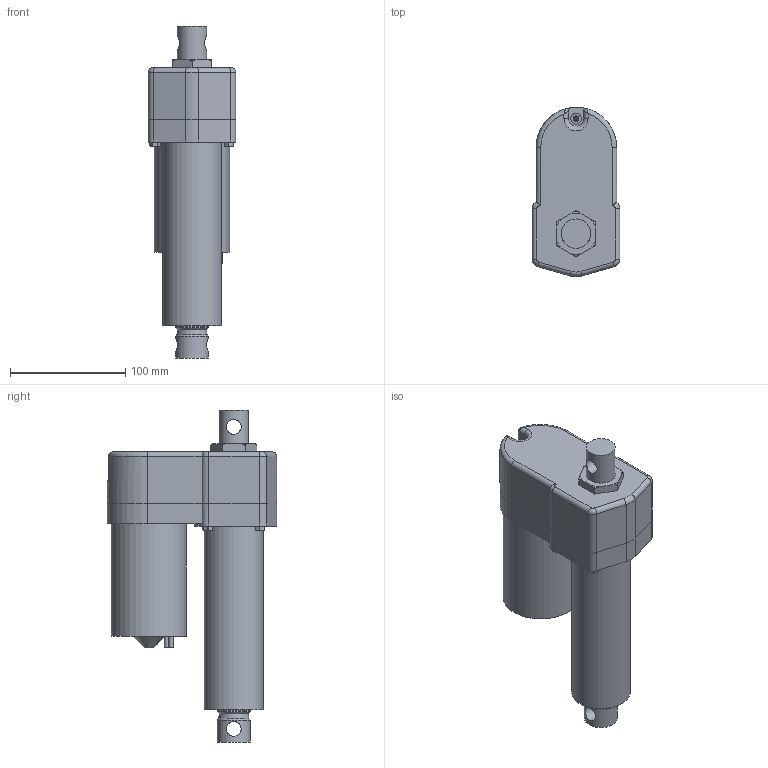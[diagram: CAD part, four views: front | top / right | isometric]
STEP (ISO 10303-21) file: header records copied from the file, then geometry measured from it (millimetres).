
FILE_DESCRIPTION (( 'STEP AP214' ), '1' );
FILE_NAME ('D12-05A5-04M0N-tollo.step', '2020-04-13T14:29:45', ( '' ), ( '' ), 'SwSTEP 2.0', 'SolidWorks 2010', '' );
FILE_SCHEMA (( 'AUTOMOTIVE_DESIGN' ));
Length unit declared in the file: millimetre
Products named in the file (7): Electrak-LA10-Motor-D12-05A5-04M0N-tollo_Electrak-LA10-Motor-D12-05A5-04M0N-tollo; Electrak-LA10-Rear-D12-05A5-04M0N-tollo_Electrak-LA10-Rear-D12-05A5-04M0N-tollo; Electrak-LA10-Tube-D12-05A5-04M0N-tollo_Electrak-LA10-Tube-D12-05A5-04M0N-tollo; Electrak-LA10-Rod-D12-05A5-04M0N-tollo_Electrak-LA10-Rod-D12-05A5-04M0N-tollo; Screw-MFX-H-M5-D12-05A5-04M0N-tollo_Screw-MFX-H-M5-D12-05A5-04M0N-tollo; Screw-M6S-M5-D12-05A5-04M0N-tollo_Screw-M6S-M5-D12-05A5-04M0N-tollo; D12-05A5-04M0N-tollo
Assembly tree (9 placements, depth 2):
  D12-05A5-04M0N-tollo
    Screw-M6S-M5-D12-05A5-04M0N-tollo_Screw-M6S-M5-D12-05A5-04M0N-tollo  x4
    Electrak-LA10-Tube-D12-05A5-04M0N-tollo_Electrak-LA10-Tube-D12-05A5-04M0N-tollo
    Electrak-LA10-Rear-D12-05A5-04M0N-tollo_Electrak-LA10-Rear-D12-05A5-04M0N-tollo
    Electrak-LA10-Rod-D12-05A5-04M0N-tollo_Electrak-LA10-Rod-D12-05A5-04M0N-tollo
    Electrak-LA10-Motor-D12-05A5-04M0N-tollo_Electrak-LA10-Motor-D12-05A5-04M0N-tollo
    Screw-MFX-H-M5-D12-05A5-04M0N-tollo_Screw-MFX-H-M5-D12-05A5-04M0N-tollo
Bounding box: 76.2 x 147.19 x 288.4 mm (x, y, z)
Volume: 1287059.1 mm3; surface area: 153511.3 mm2
Topology: 9 solids, 9 shells, 221 faces, 506 edges, 322 vertices
Faces by surface type: plane 91, cylinder 84, cone 30, torus 14, bspline 2
Full cylindrical faces by diameter (mm): 4 x2, 4.126 x5, 4.8 x10, 5 x5, 7.878 x4, 9.3 x1, 12.8 x2, 25.4 x1, 28.6 x4, 51 x1, 65.3 x1
Entity records: 5123 total; most frequent: CARTESIAN_POINT 1484, DIRECTION 724, ORIENTED_EDGE 594, AXIS2_PLACEMENT_3D 305, EDGE_CURVE 297, EDGE_LOOP 224, VERTEX_POINT 213, FACE_OUTER_BOUND 179
